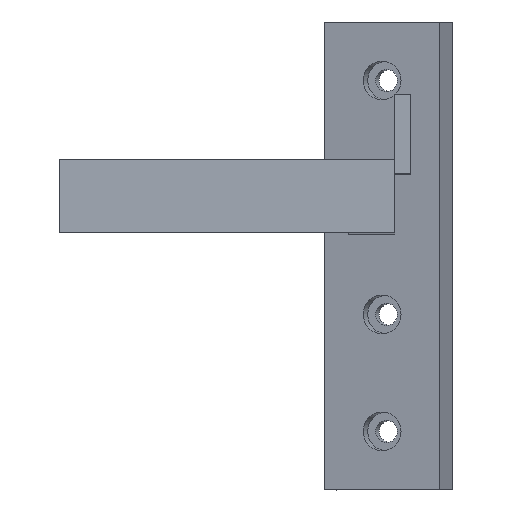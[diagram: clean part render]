
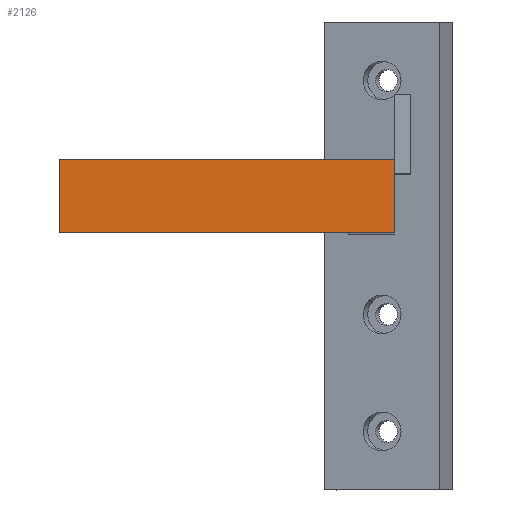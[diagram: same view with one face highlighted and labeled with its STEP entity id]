
A CAD part, top view. The second image highlights one B-rep face of the part: STEP entity #2126.
In plain terms, the highlighted planar face has unit normal (0, 0, 1).
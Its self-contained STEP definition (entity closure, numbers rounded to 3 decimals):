
#632 = PLANE('',#633);
#633 = AXIS2_PLACEMENT_3D('',#634,#635,#636);
#634 = CARTESIAN_POINT('',(0.5,26.2,-180.2));
#635 = DIRECTION('',(0.,1.,0.));
#636 = DIRECTION('',(0.,0.,1.));
#684 = PLANE('',#685);
#685 = AXIS2_PLACEMENT_3D('',#686,#687,#688);
#686 = CARTESIAN_POINT('',(0.5,42.2,-180.2));
#687 = DIRECTION('',(0.,1.,0.));
#688 = DIRECTION('',(0.,0.,1.));
#708 = PLANE('',#709);
#709 = AXIS2_PLACEMENT_3D('',#710,#711,#712);
#710 = CARTESIAN_POINT('',(10.5,26.2,-180.2));
#711 = DIRECTION('',(1.,0.,0.));
#712 = DIRECTION('',(0.,0.,1.));
#1088 = VERTEX_POINT('',#1089);
#1089 = CARTESIAN_POINT('',(10.5,26.2,21.675));
#1331 = VERTEX_POINT('',#1332);
#1332 = CARTESIAN_POINT('',(-62.364,26.2,
    21.675));
#1346 = PLANE('',#1347);
#1347 = AXIS2_PLACEMENT_3D('',#1348,#1349,#1350);
#1348 = CARTESIAN_POINT('',(-62.364,26.2,
    17.675));
#1349 = DIRECTION('',(1.,0.,0.));
#1350 = DIRECTION('',(0.,0.,1.));
#1358 = EDGE_CURVE('',#1088,#1331,#1359,.T.);
#1359 = SURFACE_CURVE('',#1360,(#1364,#1371),.PCURVE_S1.);
#1360 = LINE('',#1361,#1362);
#1361 = CARTESIAN_POINT('',(10.5,26.2,21.675));
#1362 = VECTOR('',#1363,1.);
#1363 = DIRECTION('',(-1.,0.,0.));
#1364 = PCURVE('',#632,#1365);
#1365 = DEFINITIONAL_REPRESENTATION('',(#1366),#1370);
#1366 = LINE('',#1367,#1368);
#1367 = CARTESIAN_POINT('',(201.875,10.));
#1368 = VECTOR('',#1369,1.);
#1369 = DIRECTION('',(0.,-1.));
#1370 = ( GEOMETRIC_REPRESENTATION_CONTEXT(2) 
PARAMETRIC_REPRESENTATION_CONTEXT() REPRESENTATION_CONTEXT('2D SPACE',''
  ) );
#1371 = PCURVE('',#1372,#1377);
#1372 = PLANE('',#1373);
#1373 = AXIS2_PLACEMENT_3D('',#1374,#1375,#1376);
#1374 = CARTESIAN_POINT('',(0.5,26.2,21.675));
#1375 = DIRECTION('',(0.,0.,1.));
#1376 = DIRECTION('',(1.,0.,0.));
#1377 = DEFINITIONAL_REPRESENTATION('',(#1378),#1382);
#1378 = LINE('',#1379,#1380);
#1379 = CARTESIAN_POINT('',(10.,0.));
#1380 = VECTOR('',#1381,1.);
#1381 = DIRECTION('',(-1.,0.));
#1382 = ( GEOMETRIC_REPRESENTATION_CONTEXT(2) 
PARAMETRIC_REPRESENTATION_CONTEXT() REPRESENTATION_CONTEXT('2D SPACE',''
  ) );
#1390 = VERTEX_POINT('',#1391);
#1391 = CARTESIAN_POINT('',(10.5,42.2,21.675));
#1412 = EDGE_CURVE('',#1088,#1390,#1413,.T.);
#1413 = SURFACE_CURVE('',#1414,(#1418,#1425),.PCURVE_S1.);
#1414 = LINE('',#1415,#1416);
#1415 = CARTESIAN_POINT('',(10.5,26.2,21.675));
#1416 = VECTOR('',#1417,1.);
#1417 = DIRECTION('',(0.,1.,0.));
#1418 = PCURVE('',#708,#1419);
#1419 = DEFINITIONAL_REPRESENTATION('',(#1420),#1424);
#1420 = LINE('',#1421,#1422);
#1421 = CARTESIAN_POINT('',(201.875,0.));
#1422 = VECTOR('',#1423,1.);
#1423 = DIRECTION('',(0.,-1.));
#1424 = ( GEOMETRIC_REPRESENTATION_CONTEXT(2) 
PARAMETRIC_REPRESENTATION_CONTEXT() REPRESENTATION_CONTEXT('2D SPACE',''
  ) );
#1425 = PCURVE('',#1372,#1426);
#1426 = DEFINITIONAL_REPRESENTATION('',(#1427),#1431);
#1427 = LINE('',#1428,#1429);
#1428 = CARTESIAN_POINT('',(10.,0.));
#1429 = VECTOR('',#1430,1.);
#1430 = DIRECTION('',(0.,1.));
#1431 = ( GEOMETRIC_REPRESENTATION_CONTEXT(2) 
PARAMETRIC_REPRESENTATION_CONTEXT() REPRESENTATION_CONTEXT('2D SPACE',''
  ) );
#1759 = VERTEX_POINT('',#1760);
#1760 = CARTESIAN_POINT('',(-62.364,42.2,
    21.675));
#1781 = EDGE_CURVE('',#1759,#1390,#1782,.T.);
#1782 = SURFACE_CURVE('',#1783,(#1787,#1794),.PCURVE_S1.);
#1783 = LINE('',#1784,#1785);
#1784 = CARTESIAN_POINT('',(-62.364,42.2,
    21.675));
#1785 = VECTOR('',#1786,1.);
#1786 = DIRECTION('',(1.,0.,0.));
#1787 = PCURVE('',#684,#1788);
#1788 = DEFINITIONAL_REPRESENTATION('',(#1789),#1793);
#1789 = LINE('',#1790,#1791);
#1790 = CARTESIAN_POINT('',(201.875,-62.864));
#1791 = VECTOR('',#1792,1.);
#1792 = DIRECTION('',(0.,1.));
#1793 = ( GEOMETRIC_REPRESENTATION_CONTEXT(2) 
PARAMETRIC_REPRESENTATION_CONTEXT() REPRESENTATION_CONTEXT('2D SPACE',''
  ) );
#1794 = PCURVE('',#1372,#1795);
#1795 = DEFINITIONAL_REPRESENTATION('',(#1796),#1800);
#1796 = LINE('',#1797,#1798);
#1797 = CARTESIAN_POINT('',(-62.864,16.));
#1798 = VECTOR('',#1799,1.);
#1799 = DIRECTION('',(1.,0.));
#1800 = ( GEOMETRIC_REPRESENTATION_CONTEXT(2) 
PARAMETRIC_REPRESENTATION_CONTEXT() REPRESENTATION_CONTEXT('2D SPACE',''
  ) );
#2126 = ADVANCED_FACE('',(#2127),#1372,.T.);
#2127 = FACE_BOUND('',#2128,.T.);
#2128 = EDGE_LOOP('',(#2129,#2130,#2151,#2152));
#2129 = ORIENTED_EDGE('',*,*,#1781,.F.);
#2130 = ORIENTED_EDGE('',*,*,#2131,.F.);
#2131 = EDGE_CURVE('',#1331,#1759,#2132,.T.);
#2132 = SURFACE_CURVE('',#2133,(#2137,#2144),.PCURVE_S1.);
#2133 = LINE('',#2134,#2135);
#2134 = CARTESIAN_POINT('',(-62.364,26.2,
    21.675));
#2135 = VECTOR('',#2136,1.);
#2136 = DIRECTION('',(0.,1.,0.));
#2137 = PCURVE('',#1372,#2138);
#2138 = DEFINITIONAL_REPRESENTATION('',(#2139),#2143);
#2139 = LINE('',#2140,#2141);
#2140 = CARTESIAN_POINT('',(-62.864,0.));
#2141 = VECTOR('',#2142,1.);
#2142 = DIRECTION('',(0.,1.));
#2143 = ( GEOMETRIC_REPRESENTATION_CONTEXT(2) 
PARAMETRIC_REPRESENTATION_CONTEXT() REPRESENTATION_CONTEXT('2D SPACE',''
  ) );
#2144 = PCURVE('',#1346,#2145);
#2145 = DEFINITIONAL_REPRESENTATION('',(#2146),#2150);
#2146 = LINE('',#2147,#2148);
#2147 = CARTESIAN_POINT('',(4.,0.));
#2148 = VECTOR('',#2149,1.);
#2149 = DIRECTION('',(0.,-1.));
#2150 = ( GEOMETRIC_REPRESENTATION_CONTEXT(2) 
PARAMETRIC_REPRESENTATION_CONTEXT() REPRESENTATION_CONTEXT('2D SPACE',''
  ) );
#2151 = ORIENTED_EDGE('',*,*,#1358,.F.);
#2152 = ORIENTED_EDGE('',*,*,#1412,.T.);
